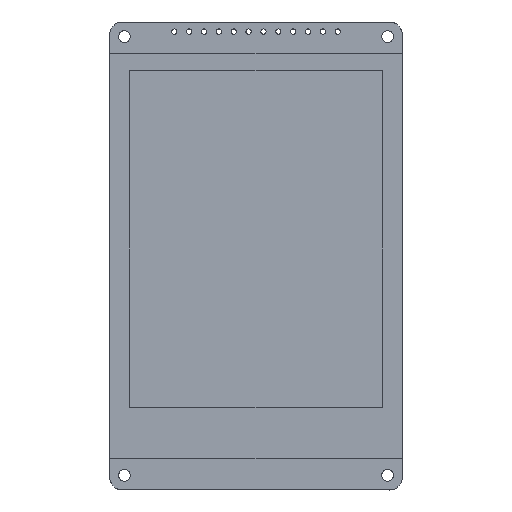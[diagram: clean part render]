
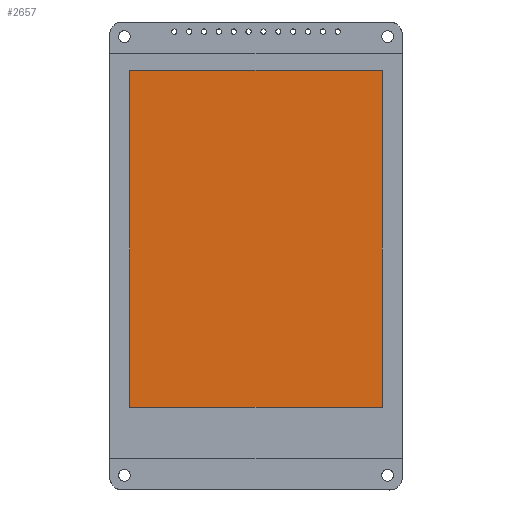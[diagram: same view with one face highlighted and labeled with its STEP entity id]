
A CAD part, top view. The second image highlights one B-rep face of the part: STEP entity #2657.
In plain terms, the highlighted planar face has unit normal (0, 0, 1).
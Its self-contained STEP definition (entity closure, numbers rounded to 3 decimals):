
#2657=ADVANCED_FACE('',(#4327),#22407,.T.);
#4327=FACE_OUTER_BOUND('',#5941,.T.);
#5941=EDGE_LOOP('',(#8564,#8565,#8566,#8567));
#8564=ORIENTED_EDGE('',*,*,#14843,.F.);
#8565=ORIENTED_EDGE('',*,*,#14844,.F.);
#8566=ORIENTED_EDGE('',*,*,#14845,.F.);
#8567=ORIENTED_EDGE('',*,*,#14842,.F.);
#14842=EDGE_CURVE('',#20565,#20566,#18230,.T.);
#14843=EDGE_CURVE('',#20567,#20565,#18231,.T.);
#14844=EDGE_CURVE('',#20568,#20567,#18232,.T.);
#14845=EDGE_CURVE('',#20566,#20568,#18233,.T.);
#18230=B_SPLINE_CURVE_WITH_KNOTS('',1,(#33491,#33492),.UNSPECIFIED.,.F.,
 .F.,(2,2),(-43.2,0.),.UNSPECIFIED.);
#18231=B_SPLINE_CURVE_WITH_KNOTS('',1,(#33493,#33494),.UNSPECIFIED.,.F.,
 .F.,(2,2),(-100.8,-43.2),.UNSPECIFIED.);
#18232=B_SPLINE_CURVE_WITH_KNOTS('',1,(#33495,#33496),.UNSPECIFIED.,.F.,
 .F.,(2,2),(-144.,-100.8),.UNSPECIFIED.);
#18233=B_SPLINE_CURVE_WITH_KNOTS('',1,(#33497,#33498),.UNSPECIFIED.,.F.,
 .F.,(2,2),(-201.6,-144.),.UNSPECIFIED.);
#20565=VERTEX_POINT('',#33471);
#20566=VERTEX_POINT('',#33472);
#20567=VERTEX_POINT('',#33473);
#20568=VERTEX_POINT('',#33474);
#22407=PLANE('',#23146);
#23146=AXIS2_PLACEMENT_3D('',#33466,#23870,$);
#23870=DIRECTION('',(0.,0.,1.));
#33466=CARTESIAN_POINT('',(-25.,5.404,4.049));
#33471=CARTESIAN_POINT('',(21.6,14.104,4.049));
#33472=CARTESIAN_POINT('',(-21.6,14.104,4.049));
#33473=CARTESIAN_POINT('',(21.6,71.704,4.049));
#33474=CARTESIAN_POINT('',(-21.6,71.704,4.049));
#33491=CARTESIAN_POINT('',(21.6,14.104,4.049));
#33492=CARTESIAN_POINT('',(-21.6,14.104,4.049));
#33493=CARTESIAN_POINT('',(21.6,71.704,4.049));
#33494=CARTESIAN_POINT('',(21.6,14.104,4.049));
#33495=CARTESIAN_POINT('',(-21.6,71.704,4.049));
#33496=CARTESIAN_POINT('',(21.6,71.704,4.049));
#33497=CARTESIAN_POINT('',(-21.6,14.104,4.049));
#33498=CARTESIAN_POINT('',(-21.6,71.704,4.049));
